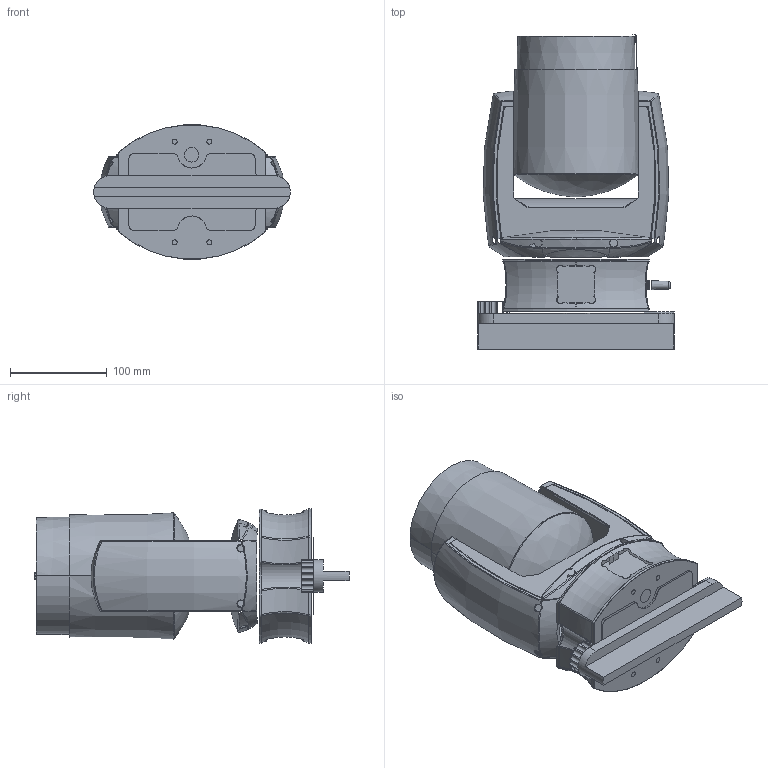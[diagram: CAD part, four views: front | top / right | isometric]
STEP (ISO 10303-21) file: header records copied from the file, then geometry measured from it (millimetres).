
FILE_DESCRIPTION((''),'2;1');
FILE_NAME('EINFACH_DGKLOGFSDKPOGFSDKP','2019-01-29T16:47:20',('fw'),(''),'CREO PARAMETRIC BY PTC INC, 2018260','CREO PARAMETRIC BY PTC INC, 2018260','');
FILE_SCHEMA(('AUTOMOTIVE_DESIGN { 1 0 10303 214 1 1 1 1 }'));
Length unit declared in the file: millimetre
Products named in the file (1): EINFACH_DGKLOGFSDKPOGFSDKP
Bounding box: 203 x 324.47 x 138.5 mm (x, y, z)
Surface area: 331346.5 mm2 (no closed solid volume)
Topology: 0 solids, 100 shells, 312 faces, 1372 edges, 1127 vertices
Faces by surface type: cylinder 105, plane 81, bspline 69, torus 24, extrusion 20, cone 13
Entity records: 21233 total; most frequent: CARTESIAN_POINT 8636, DIRECTION 1857, ORIENTED_EDGE 1707, EDGE_CURVE 1362, VERTEX_POINT 1123, AXIS2_PLACEMENT_3D 676, VECTOR 505, LINE 485
